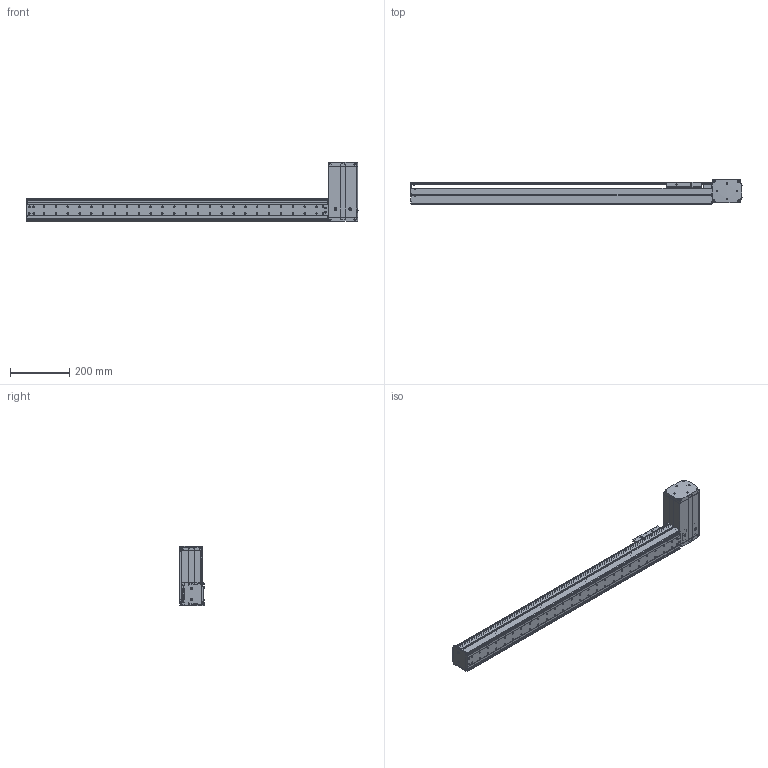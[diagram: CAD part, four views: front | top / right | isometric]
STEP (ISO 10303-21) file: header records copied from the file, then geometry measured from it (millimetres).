
FILE_DESCRIPTION((''),'2;1');
FILE_NAME('BE10_-BR-M_N-80_IGS_PRT','2017-06-18T',(' '),(''),'PRO/ENGINEER BY PARAMETRIC TECHNOLOGY CORPORATION, 2015030','PRO/ENGINEER BY PARAMETRIC TECHNOLOGY CORPORATION, 2015030','');
FILE_SCHEMA(('CONFIG_CONTROL_DESIGN'));
Products named in the file (1): BE10_-BR-M_N-80_IGS_PRT
Bounding box: 1120.8 x 82.5 x 200.22 mm (x, y, z)
Volume: 1416043.9 mm3; surface area: 1005619.2 mm2
Topology: 3 solids, 142 shells, 2106 faces, 5747 edges, 3785 vertices
Faces by surface type: plane 997, cylinder 938, cone 111, sphere 30, torus 27, bspline 3
Entity records: 68501 total; most frequent: CARTESIAN_POINT 14030, DIRECTION 11570, ORIENTED_EDGE 10890, EDGE_CURVE 5685, AXIS2_PLACEMENT_3D 4157, VERTEX_POINT 3785, VECTOR 3256, LINE 3256
